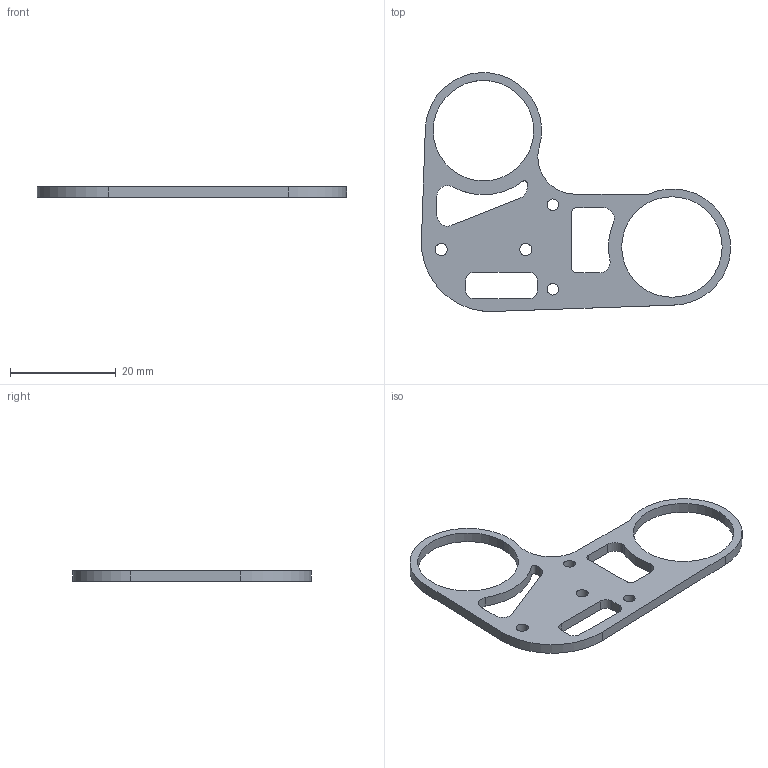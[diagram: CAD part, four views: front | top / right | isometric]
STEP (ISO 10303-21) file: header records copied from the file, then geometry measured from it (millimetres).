
FILE_DESCRIPTION (( 'STEP AP203' ), '1' );
FILE_NAME ('01-upper_leg_rigidity_plate_奻虯樓嘐啣-FT.STEP', '2026-09-12T23:38:31', ( '' ), ( '' ), 'SwSTEP 2.0', 'SolidWorks 2021', '' );
FILE_SCHEMA (( 'CONFIG_CONTROL_DESIGN' ));
Length unit declared in the file: millimetre
Products named in the file (1): 01-upper_leg_rigidity_plate_奻虯樓嘐啣-FT
Bounding box: 58.46 x 45.18 x 2 mm (x, y, z)
Volume: 1677.9 mm3; surface area: 2565.4 mm2
Topology: 1 solids, 1 shells, 48 faces, 138 edges, 92 vertices
Faces by surface type: cylinder 33, plane 15
Entity records: 1721 total; most frequent: DIRECTION 302, CARTESIAN_POINT 279, ORIENTED_EDGE 276, EDGE_CURVE 138, AXIS2_PLACEMENT_3D 115, VERTEX_POINT 92, LINE 72, VECTOR 72
